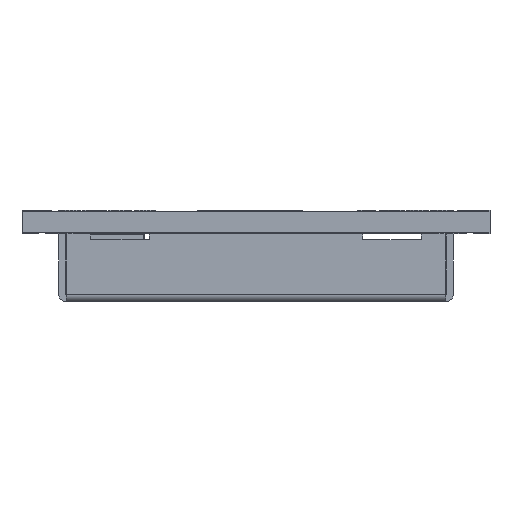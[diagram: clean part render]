
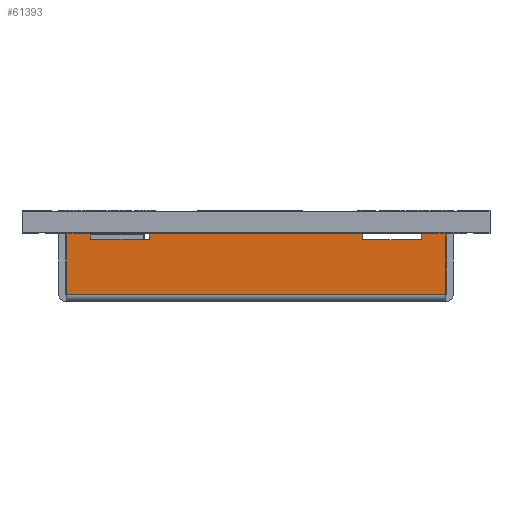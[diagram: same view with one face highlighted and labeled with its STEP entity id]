
A CAD part, front view. The second image highlights one B-rep face of the part: STEP entity #61393.
In plain terms, the highlighted planar face has unit normal (0, -1, 0).
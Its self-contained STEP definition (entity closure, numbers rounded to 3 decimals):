
#886 = DIRECTION ( 'NONE',  ( 0., 0., 1. ) ) ;
#1060 = DIRECTION ( 'NONE',  ( 1., 0., 0. ) ) ;
#3534 = CARTESIAN_POINT ( 'NONE',  ( -5.65, -11.25, -0.225 ) ) ;
#6359 = CARTESIAN_POINT ( 'NONE',  ( 3.65, -11.25, -0.225 ) ) ;
#7714 = DIRECTION ( 'NONE',  ( 0., -1., 0. ) ) ;
#8037 = VERTEX_POINT ( 'NONE', #64382 ) ;
#9461 = EDGE_CURVE ( 'NONE', #82708, #73520, #15836, .T. ) ;
#10744 = CARTESIAN_POINT ( 'NONE',  ( -6.49, -11.25, -2.1 ) ) ;
#11729 = LINE ( 'NONE', #3534, #85454 ) ;
#13987 = VECTOR ( 'NONE', #64798, 1000. ) ;
#14044 = CARTESIAN_POINT ( 'NONE',  ( -3.65, -11.25, -0.225 ) ) ;
#14331 = LINE ( 'NONE', #106290, #23040 ) ;
#15836 = LINE ( 'NONE', #40967, #54718 ) ;
#16539 = EDGE_CURVE ( 'NONE', #50189, #8037, #11729, .T. ) ;
#17452 = AXIS2_PLACEMENT_3D ( 'NONE', #82695, #7714, #39466 ) ;
#17910 = CARTESIAN_POINT ( 'NONE',  ( 6.49, -11.25, -0.025 ) ) ;
#21516 = VECTOR ( 'NONE', #23713, 1000. ) ;
#22164 = DIRECTION ( 'NONE',  ( -1., 0., 0. ) ) ;
#22759 = ORIENTED_EDGE ( 'NONE', *, *, #54117, .T. ) ;
#23040 = VECTOR ( 'NONE', #31258, 1000. ) ;
#23628 = VERTEX_POINT ( 'NONE', #10744 ) ;
#23713 = DIRECTION ( 'NONE',  ( 0., 0., 1. ) ) ;
#23772 = VERTEX_POINT ( 'NONE', #100490 ) ;
#31258 = DIRECTION ( 'NONE',  ( 0., 0., 1. ) ) ;
#33703 = LINE ( 'NONE', #74834, #52942 ) ;
#35002 = CARTESIAN_POINT ( 'NONE',  ( -0.117, -11.25, -0.025 ) ) ;
#35101 = VERTEX_POINT ( 'NONE', #37531 ) ;
#37531 = CARTESIAN_POINT ( 'NONE',  ( -6.49, -11.25, -0.025 ) ) ;
#37844 = VERTEX_POINT ( 'NONE', #17910 ) ;
#38282 = DIRECTION ( 'NONE',  ( 0., 0., -1. ) ) ;
#39466 = DIRECTION ( 'NONE',  ( 0., 0., -1. ) ) ;
#39477 = CARTESIAN_POINT ( 'NONE',  ( 3.65, -11.25, -0.025 ) ) ;
#40967 = CARTESIAN_POINT ( 'NONE',  ( -0.117, -11.25, -0.025 ) ) ;
#41281 = LINE ( 'NONE', #99425, #90680 ) ;
#43273 = EDGE_CURVE ( 'NONE', #50189, #73520, #14331, .T. ) ;
#44233 = CARTESIAN_POINT ( 'NONE',  ( -5.65, -11.25, -2.1 ) ) ;
#47202 = LINE ( 'NONE', #98740, #21516 ) ;
#48183 = EDGE_CURVE ( 'NONE', #107706, #35101, #70069, .T. ) ;
#50084 = DIRECTION ( 'NONE',  ( -1., 0., 0. ) ) ;
#50189 = VERTEX_POINT ( 'NONE', #14044 ) ;
#51491 = EDGE_CURVE ( 'NONE', #37844, #23772, #96201, .T. ) ;
#52928 = ORIENTED_EDGE ( 'NONE', *, *, #9461, .T. ) ;
#52942 = VECTOR ( 'NONE', #50084, 1000. ) ;
#54117 = EDGE_CURVE ( 'NONE', #8037, #107706, #47202, .T. ) ;
#54718 = VECTOR ( 'NONE', #74421, 1000. ) ;
#60696 = EDGE_CURVE ( 'NONE', #35101, #23628, #77235, .T. ) ;
#61393 = ADVANCED_FACE ( 'NONE', ( #83235 ), #75060, .T. ) ;
#62078 = EDGE_CURVE ( 'NONE', #90133, #37844, #67661, .T. ) ;
#62472 = ORIENTED_EDGE ( 'NONE', *, *, #83855, .T. ) ;
#63442 = CARTESIAN_POINT ( 'NONE',  ( -5.65, -11.25, -0.025 ) ) ;
#63793 = DIRECTION ( 'NONE',  ( -1., 0., 0. ) ) ;
#64043 = VECTOR ( 'NONE', #63793, 1000. ) ;
#64382 = CARTESIAN_POINT ( 'NONE',  ( -5.65, -11.25, -0.225 ) ) ;
#64798 = DIRECTION ( 'NONE',  ( 0., 0., 1. ) ) ;
#67661 = LINE ( 'NONE', #75886, #68242 ) ;
#68242 = VECTOR ( 'NONE', #886, 1000. ) ;
#68432 = VECTOR ( 'NONE', #94742, 1000. ) ;
#69542 = CARTESIAN_POINT ( 'NONE',  ( -6.49, -11.25, -0.025 ) ) ;
#70069 = LINE ( 'NONE', #35002, #68432 ) ;
#70508 = EDGE_CURVE ( 'NONE', #101209, #82708, #89993, .T. ) ;
#72863 = VERTEX_POINT ( 'NONE', #89022 ) ;
#73520 = VERTEX_POINT ( 'NONE', #92105 ) ;
#74421 = DIRECTION ( 'NONE',  ( -1., 0., 0. ) ) ;
#74834 = CARTESIAN_POINT ( 'NONE',  ( -5.65, -11.25, -0.225 ) ) ;
#74942 = CARTESIAN_POINT ( 'NONE',  ( 6.49, -11.25, -2.1 ) ) ;
#75060 = PLANE ( 'NONE',  #17452 ) ;
#75886 = CARTESIAN_POINT ( 'NONE',  ( 6.49, -11.25, -2.35 ) ) ;
#76895 = EDGE_CURVE ( 'NONE', #72863, #23772, #41281, .T. ) ;
#77235 = LINE ( 'NONE', #69542, #90873 ) ;
#78205 = LINE ( 'NONE', #44233, #108033 ) ;
#79616 = ORIENTED_EDGE ( 'NONE', *, *, #48183, .T. ) ;
#80614 = ORIENTED_EDGE ( 'NONE', *, *, #16539, .T. ) ;
#81726 = CARTESIAN_POINT ( 'NONE',  ( 3.65, -11.25, -0.025 ) ) ;
#81933 = ORIENTED_EDGE ( 'NONE', *, *, #76895, .F. ) ;
#82695 = CARTESIAN_POINT ( 'NONE',  ( -5.65, -11.25, -0.025 ) ) ;
#82708 = VERTEX_POINT ( 'NONE', #39477 ) ;
#83235 = FACE_OUTER_BOUND ( 'NONE', #86283, .T. ) ;
#83855 = EDGE_CURVE ( 'NONE', #72863, #101209, #33703, .T. ) ;
#84016 = DIRECTION ( 'NONE',  ( 0., 0., 1. ) ) ;
#85454 = VECTOR ( 'NONE', #22164, 1000. ) ;
#86283 = EDGE_LOOP ( 'NONE', ( #79616, #102042, #94532, #103386, #87075, #81933, #62472, #100706, #52928, #95963, #80614, #22759 ) ) ;
#87075 = ORIENTED_EDGE ( 'NONE', *, *, #51491, .T. ) ;
#89022 = CARTESIAN_POINT ( 'NONE',  ( 5.65, -11.25, -0.225 ) ) ;
#89993 = LINE ( 'NONE', #81726, #13987 ) ;
#90133 = VERTEX_POINT ( 'NONE', #74942 ) ;
#90680 = VECTOR ( 'NONE', #84016, 1000. ) ;
#90791 = EDGE_CURVE ( 'NONE', #23628, #90133, #78205, .T. ) ;
#90873 = VECTOR ( 'NONE', #38282, 1000. ) ;
#92105 = CARTESIAN_POINT ( 'NONE',  ( -3.65, -11.25, -0.025 ) ) ;
#94532 = ORIENTED_EDGE ( 'NONE', *, *, #90791, .T. ) ;
#94742 = DIRECTION ( 'NONE',  ( -1., 0., 0. ) ) ;
#95963 = ORIENTED_EDGE ( 'NONE', *, *, #43273, .F. ) ;
#96201 = LINE ( 'NONE', #97790, #64043 ) ;
#97790 = CARTESIAN_POINT ( 'NONE',  ( -5.65, -11.25, -0.025 ) ) ;
#98740 = CARTESIAN_POINT ( 'NONE',  ( -5.65, -11.25, -0.025 ) ) ;
#99425 = CARTESIAN_POINT ( 'NONE',  ( 5.65, -11.25, -0.025 ) ) ;
#100490 = CARTESIAN_POINT ( 'NONE',  ( 5.65, -11.25, -0.025 ) ) ;
#100706 = ORIENTED_EDGE ( 'NONE', *, *, #70508, .T. ) ;
#101209 = VERTEX_POINT ( 'NONE', #6359 ) ;
#102042 = ORIENTED_EDGE ( 'NONE', *, *, #60696, .T. ) ;
#103386 = ORIENTED_EDGE ( 'NONE', *, *, #62078, .T. ) ;
#106290 = CARTESIAN_POINT ( 'NONE',  ( -3.65, -11.25, -0.025 ) ) ;
#107706 = VERTEX_POINT ( 'NONE', #63442 ) ;
#108033 = VECTOR ( 'NONE', #1060, 1000. ) ;
